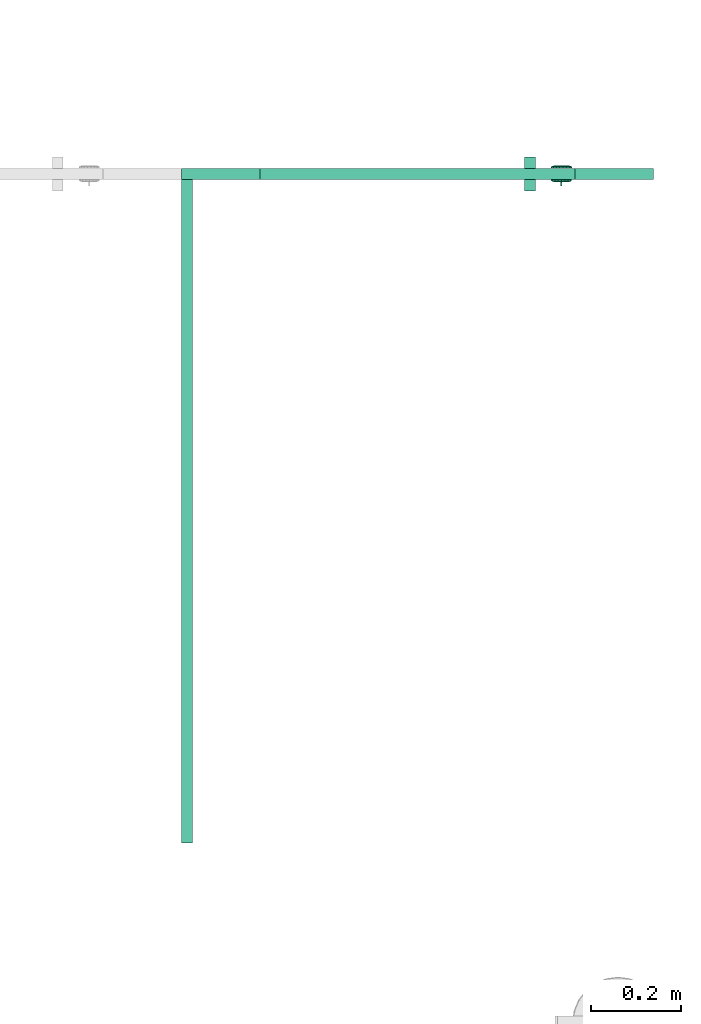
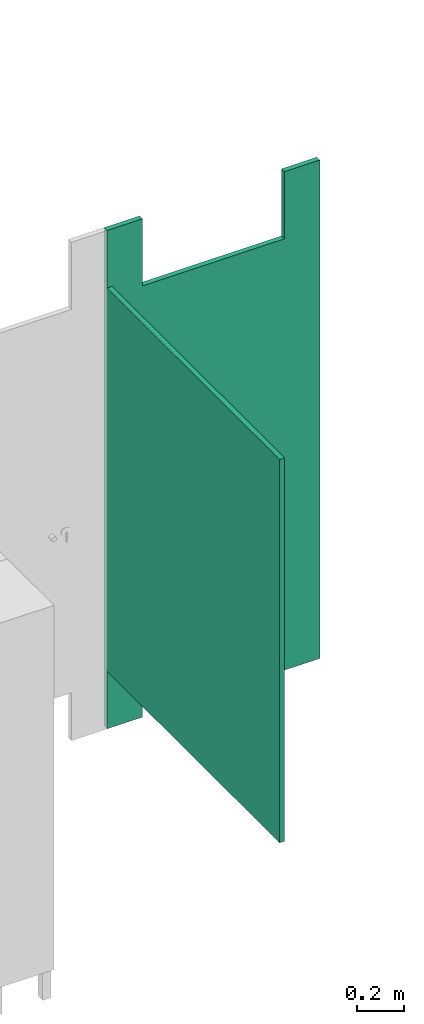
# One storey, part 6 of 9: 1 sanitary terminal.
"""IFC4 building model written with IfcOpenShell, lengths in millimetres."""

from ifc_helpers import new_model, entity, si_unit, converted_unit, derived_unit, direction, frame, origin_with_axes, place, context, subcontext, project, spatial, polygons, type_object, element, save


model = new_model("IFC4")

# Units and contexts
model_context = context("Model", 3, precision=0.01, world=origin_with_axes(), true_north=direction((0.0, 1.0)))
body_context = subcontext(model_context, "Body", "Model", "MODEL_VIEW")
ifc_project = project(units=[si_unit("LENGTHUNIT", "METRE", prefix="MILLI"), si_unit("AREAUNIT", "SQUARE_METRE"), si_unit("VOLUMEUNIT", "CUBIC_METRE"), converted_unit("PLANEANGLEUNIT", "DEGREE", entity("IfcPlaneAngleMeasure", 0.0174532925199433), si_unit("PLANEANGLEUNIT", "RADIAN"), dimensions=[0, 0, 0, 0, 0, 0, 0]), converted_unit("TIMEUNIT", "Year", entity("IfcTimeMeasure", 31557600.0), si_unit("TIMEUNIT", "SECOND"), dimensions=[0, 0, 1, 0, 0, 0, 0]), si_unit("MASSUNIT", "GRAM", prefix="KILO"), si_unit("THERMODYNAMICTEMPERATUREUNIT", "DEGREE_CELSIUS"), si_unit("LUMINOUSINTENSITYUNIT", "LUMEN"), si_unit("ENERGYUNIT", "JOULE", prefix="MEGA"), derived_unit("THERMALCONDUCTANCEUNIT", [(si_unit("POWERUNIT", "WATT"), 1), (si_unit("LENGTHUNIT", "METRE"), -1), (si_unit("THERMODYNAMICTEMPERATUREUNIT", "KELVIN"), -1)]), derived_unit("SPECIFICHEATCAPACITYUNIT", [(si_unit("ENERGYUNIT", "JOULE"), 1), (si_unit("MASSUNIT", "GRAM", prefix="KILO"), -1), (si_unit("THERMODYNAMICTEMPERATUREUNIT", "KELVIN"), -1)]), derived_unit("MASSDENSITYUNIT", [(si_unit("MASSUNIT", "GRAM", prefix="KILO"), 1), (si_unit("VOLUMEUNIT", "CUBIC_METRE"), -1)])], contexts=[model_context])

# Site, building, storey
site_placement = place(None, origin_with_axes())
site = spatial("IfcSite", under=ifc_project, at=site_placement, Name="Exteriér", CompositionType="ELEMENT")
building_placement = place(site_placement, origin_with_axes())
building = spatial("IfcBuilding", under=site, at=building_placement, Name="Univerzitní lezecké centrum", CompositionType="ELEMENT")
storey_placement = place(building_placement, frame((0.0, 0.0, 3200.0), z_axis=(0.0, 0.0, 1.0), x_axis=(1.0, 0.0, 0.0)))
storey = spatial("IfcBuildingStorey", under=building, at=storey_placement, Name="2.NP", CompositionType="ELEMENT", Elevation=3200.0)

# Sanitary terminal
sanitary_terminal_type = type_object("IfcSanitaryTerminalType", Name="Veřejná koupelnová kabinka 27", PredefinedType="NOTDEFINED")
sanitary_terminal_placement = place(storey_placement, frame((8950.096919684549, 500.3872060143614, 0.0), z_axis=(0.0, 0.0, 1.0), x_axis=(-1.0, 0.0, 0.0)))
element("IfcSanitaryTerminal", 1, at=sanitary_terminal_placement, inside=storey, type_object=sanitary_terminal_type, Name="OV24", PredefinedType="NOTDEFINED", context=body_context, shape_type="Tessellation", body=[
    polygons([(0.0, 0.0, 200.0), (0.0, 0.0, 2600.0), (-175.0000000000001, 0.0, 2600.0), (-175.0000000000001, 0.0, 200.0), (0.0, 25.0, 200.0), (0.0, 25.0, 2600.0), (-175.0000000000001, 25.0, 2600.0), (-175.0000000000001, 25.0, 200.0)], [[[1, 2, 3, 4]], [[5, 6, 2, 1]], [[2, 6, 7, 3]], [[4, 3, 7, 8]], [[1, 4, 8, 5]], [[8, 7, 6, 5]]], closed=True),
    polygons([(-875.0, 0.0, 200.0), (-875.0, 0.0, 2600.0), (-1050.0, 0.0, 2600.0), (-1050.0, 0.0, 200.0), (-875.0, 25.0, 200.0), (-875.0, 25.0, 2600.0), (-1050.0, 25.0, 2600.0), (-1050.0, 25.0, 200.0)], [[[1, 2, 3, 4]], [[5, 6, 2, 1]], [[2, 6, 7, 3]], [[4, 3, 7, 8]], [[1, 4, 8, 5]], [[8, 7, 6, 5]]], closed=True),
    polygons([(0.0, 0.0, 0.0), (0.0, 0.0, 200.0), (-175.0000000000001, 0.0, 200.0), (-175.0000000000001, 0.0, 0.0), (0.0, 25.0, 0.0), (0.0, 25.0, 200.0), (-175.0000000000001, 25.0, 200.0), (-175.0000000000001, 25.0, 0.0)], [[[1, 2, 3, 4]], [[5, 6, 2, 1]], [[2, 6, 7, 3]], [[4, 3, 7, 8]], [[1, 4, 8, 5]], [[8, 7, 6, 5]]], closed=True),
    polygons([(-875.0, 0.0, 0.0), (-875.0, 0.0, 200.0), (-1050.0, 0.0, 200.0), (-1050.0, 0.0, 0.0), (-875.0, 25.0, 0.0), (-875.0, 25.0, 200.0), (-1050.0, 25.0, 200.0), (-1050.0, 25.0, 0.0)], [[[1, 2, 3, 4]], [[5, 6, 2, 1]], [[2, 6, 7, 3]], [[4, 3, 7, 8]], [[1, 4, 8, 5]], [[8, 7, 6, 5]]], closed=True),
    polygons([(-175.0000000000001, 0.0, 250.0), (-175.0000000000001, 0.0, 2250.0), (-875.0, 0.0, 2250.0), (-875.0, 0.0, 250.0), (-175.0000000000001, 25.0, 250.0), (-175.0000000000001, 25.0, 2250.0), (-875.0, 25.0, 2250.0), (-875.0, 25.0, 250.0)], [[[1, 2, 3, 4]], [[5, 6, 2, 1]], [[2, 6, 7, 3]], [[4, 3, 7, 8]], [[1, 4, 8, 5]], [[8, 7, 6, 5]]], closed=True),
    polygons([(-843.5, 30.0, 1103.0), (-843.5, 32.0, 1103.0), (-846.5, 32.0, 1103.0), (-846.5, 30.0, 1103.0), (-843.5, 30.0, 1097.0), (-843.5, 32.0, 1097.0), (-843.5, 32.0, 1053.0), (-843.5, 34.0, 1051.0), (-843.5, 35.0, 1051.0), (-843.5, 38.00000000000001, 1072.0), (-843.5, 39.00000000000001, 1090.0), (-843.5, 39.00000000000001, 1102.0), (-846.5, 39.00000000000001, 1102.0), (-846.5, 39.00000000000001, 1090.0), (-846.5, 38.00000000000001, 1072.0), (-846.5, 35.0, 1051.0), (-846.5, 34.0, 1051.0), (-846.5, 32.0, 1053.0), (-846.5, 32.0, 1097.0), (-846.5, 30.0, 1097.0)], [[[1, 2, 3, 4]], [[1, 5, 6, 7, 8, 9, 10, 11, 12, 2]], [[2, 12, 13, 3]], [[4, 3, 13, 14, 15, 16, 17, 18, 19, 20]], [[5, 1, 4, 20]], [[6, 5, 20, 19]], [[7, 6, 19, 18]], [[8, 7, 18, 17]], [[9, 8, 17, 16]], [[10, 9, 16, 15]], [[11, 10, 15, 14]], [[12, 11, 14, 13]]], closed=True),
    polygons([(-839.1856575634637, 30.0, 1115.97477455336), (-845.0, 30.0, 1117.0), (-845.0, 28.0, 1123.0), (-837.1335367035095, 28.0, 1121.612930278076), (-834.0726106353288, 30.0, 1113.022755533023), (-830.2775681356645, 30.0, 1108.5), (-828.2582681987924, 30.0, 1102.952019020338), (-828.2582681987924, 30.0, 1097.047980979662), (-830.2775681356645, 30.0, 1091.5), (-834.0726106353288, 30.0, 1086.977244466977), (-839.1856575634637, 30.0, 1084.02522544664), (-845.0, 30.0, 1083.0), (-850.8143424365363, 30.0, 1084.02522544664), (-855.9273893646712, 30.0, 1086.977244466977), (-859.7224318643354, 30.0, 1091.5), (-861.7417318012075, 30.0, 1097.047980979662), (-861.7417318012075, 30.0, 1102.952019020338), (-859.7224318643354, 30.0, 1108.5), (-855.9273893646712, 30.0, 1113.022755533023), (-850.8143424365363, 30.0, 1115.97477455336), (-852.8664632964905, 28.0, 1121.612930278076), (-845.0, 25.0, 1123.0), (-837.1335367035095, 25.0, 1121.612930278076), (-830.2158849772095, 28.0, 1117.619022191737), (-825.0814157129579, 28.0, 1111.5), (-822.3494216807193, 28.0, 1103.993908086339), (-822.3494216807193, 28.0, 1096.006091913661), (-825.0814157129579, 28.0, 1088.5), (-830.2158849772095, 28.0, 1082.380977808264), (-837.1335367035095, 28.0, 1078.387069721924), (-845.0, 28.0, 1077.0), (-852.8664632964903, 28.0, 1078.387069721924), (-859.7841150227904, 28.0, 1082.380977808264), (-864.918584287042, 28.0, 1088.5), (-867.6505783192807, 28.0, 1096.006091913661), (-867.6505783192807, 28.0, 1103.993908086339), (-864.918584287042, 28.0, 1111.5), (-859.7841150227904, 28.0, 1117.619022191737), (-852.8664632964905, 25.0, 1121.612930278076), (-830.2158849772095, 25.0, 1117.619022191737), (-825.0814157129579, 25.0, 1111.5), (-822.3494216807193, 25.0, 1103.993908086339), (-822.3494216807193, 25.0, 1096.006091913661), (-825.0814157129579, 25.0, 1088.5), (-830.2158849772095, 25.0, 1082.380977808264), (-837.1335367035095, 25.0, 1078.387069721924), (-845.0, 25.0, 1077.0), (-852.8664632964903, 25.0, 1078.387069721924), (-859.7841150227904, 25.0, 1082.380977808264), (-864.918584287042, 25.0, 1088.5), (-867.6505783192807, 25.0, 1096.006091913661), (-867.6505783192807, 25.0, 1103.993908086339), (-864.918584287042, 25.0, 1111.5), (-859.7841150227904, 25.0, 1117.619022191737)], [[[1, 2, 3, 4]], [[2, 1, 5, 6, 7, 8, 9, 10, 11, 12, 13, 14, 15, 16, 17, 18, 19, 20]], [[2, 20, 21, 3]], [[4, 3, 22, 23]], [[5, 1, 4, 24]], [[6, 5, 24, 25]], [[7, 6, 25, 26]], [[8, 7, 26, 27]], [[9, 8, 27, 28]], [[10, 9, 28, 29]], [[11, 10, 29, 30]], [[12, 11, 30, 31]], [[13, 12, 31, 32]], [[14, 13, 32, 33]], [[15, 14, 33, 34]], [[16, 15, 34, 35]], [[17, 16, 35, 36]], [[18, 17, 36, 37]], [[19, 18, 37, 38]], [[20, 19, 38, 21]], [[3, 21, 39, 22]], [[24, 4, 23, 40]], [[25, 24, 40, 41]], [[26, 25, 41, 42]], [[27, 26, 42, 43]], [[28, 27, 43, 44]], [[29, 28, 44, 45]], [[30, 29, 45, 46]], [[31, 30, 46, 47]], [[32, 31, 47, 48]], [[33, 32, 48, 49]], [[34, 33, 49, 50]], [[35, 34, 50, 51]], [[36, 35, 51, 52]], [[37, 36, 52, 53]], [[38, 37, 53, 54]], [[21, 38, 54, 39]]], closed=False),
    polygons([(-822.0, -1.200000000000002, 1100.0), (-823.3870697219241, -1.200000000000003, 1107.866463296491), (-823.3870697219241, -4.200000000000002, 1107.866463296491), (-822.0, -4.200000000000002, 1100.0), (-823.3870697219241, -1.200000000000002, 1092.13353670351), (-827.3809778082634, -1.200000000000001, 1085.215884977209), (-833.5, -1.2, 1080.081415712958), (-841.0060919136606, -1.199999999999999, 1077.349421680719), (-848.9939080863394, -1.199999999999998, 1077.349421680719), (-856.5, -1.199999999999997, 1080.081415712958), (-862.6190221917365, -1.199999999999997, 1085.21588497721), (-866.6129302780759, -1.199999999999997, 1092.13353670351), (-868.0, -1.199999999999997, 1100.0), (-866.6129302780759, -1.199999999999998, 1107.866463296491), (-862.6190221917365, -1.199999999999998, 1114.784115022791), (-856.4999999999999, -1.2, 1119.918584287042), (-848.9939080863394, -1.200000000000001, 1122.650578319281), (-841.0060919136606, -1.200000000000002, 1122.650578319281), (-833.5, -1.200000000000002, 1119.918584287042), (-827.3809778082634, -1.200000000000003, 1114.784115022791), (-827.3809778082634, -4.200000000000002, 1114.784115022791), (-833.5, -4.200000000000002, 1119.918584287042), (-841.0060919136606, -4.200000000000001, 1122.650578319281), (-848.9939080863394, -4.2, 1122.650578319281), (-856.4999999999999, -4.2, 1119.918584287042), (-862.6190221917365, -4.199999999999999, 1114.784115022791), (-866.6129302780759, -4.199999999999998, 1107.866463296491), (-868.0, -4.199999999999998, 1100.0), (-866.6129302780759, -4.199999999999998, 1092.13353670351), (-862.6190221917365, -4.199999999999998, 1085.21588497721), (-856.5, -4.199999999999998, 1080.081415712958), (-848.9939080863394, -4.199999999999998, 1077.349421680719), (-841.0060919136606, -4.199999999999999, 1077.349421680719), (-833.5, -4.2, 1080.081415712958), (-827.3809778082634, -4.2, 1085.215884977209), (-823.3870697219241, -4.200000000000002, 1092.13353670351)], [[[1, 2, 3, 4]], [[1, 5, 6, 7, 8, 9, 10, 11, 12, 13, 14, 15, 16, 17, 18, 19, 20, 2]], [[2, 20, 21, 3]], [[4, 3, 21, 22, 23, 24, 25, 26, 27, 28, 29, 30, 31, 32, 33, 34, 35, 36]], [[5, 1, 4, 36]], [[6, 5, 36, 35]], [[7, 6, 35, 34]], [[8, 7, 34, 33]], [[9, 8, 33, 32]], [[10, 9, 32, 31]], [[11, 10, 31, 30]], [[12, 11, 30, 29]], [[13, 12, 29, 28]], [[14, 13, 28, 27]], [[15, 14, 27, 26]], [[16, 15, 26, 25]], [[17, 16, 25, 24]], [[18, 17, 24, 23]], [[19, 18, 23, 22]], [[20, 19, 22, 21]]], closed=True),
    polygons([(-853.4999999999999, -6.199999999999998, 1085.277568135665), (-847.9520190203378, -6.199999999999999, 1083.258268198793), (-842.0479809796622, -6.199999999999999, 1083.258268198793), (-836.5, -6.2, 1085.277568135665), (-831.9772444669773, -6.2, 1089.072610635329), (-829.0252254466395, -6.200000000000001, 1094.185657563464), (-828.0, -6.200000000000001, 1100.0), (-829.0252254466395, -6.200000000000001, 1105.814342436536), (-831.9772444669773, -6.200000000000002, 1110.927389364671), (-836.4999999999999, -6.200000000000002, 1114.722431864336), (-842.0479809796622, -6.200000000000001, 1116.741731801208), (-847.9520190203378, -6.200000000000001, 1116.741731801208), (-853.4999999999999, -6.2, 1114.722431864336), (-858.0227555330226, -6.2, 1110.927389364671), (-860.9747745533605, -6.199999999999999, 1105.814342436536), (-862.0, -6.199999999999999, 1100.0), (-860.9747745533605, -6.199999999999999, 1094.185657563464), (-858.0227555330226, -6.199999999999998, 1089.072610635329), (-841.0, -6.200000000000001, 1107.5), (-849.0, -6.2, 1107.5), (-849.0, -6.200000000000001, 1112.5), (-841.0, -6.200000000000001, 1112.5), (-848.9939080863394, -4.199999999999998, 1077.349421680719), (-856.4999999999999, -4.199999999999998, 1080.081415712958), (-841.0060919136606, -4.199999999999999, 1077.349421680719), (-833.5, -4.199999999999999, 1080.081415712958), (-827.3809778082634, -4.2, 1085.21588497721), (-823.3870697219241, -4.2, 1092.13353670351), (-822.0, -4.2, 1100.0), (-823.3870697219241, -4.200000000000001, 1107.866463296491), (-827.3809778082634, -4.200000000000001, 1114.784115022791), (-833.4999999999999, -4.200000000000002, 1119.918584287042), (-841.0060919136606, -4.200000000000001, 1122.650578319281), (-848.9939080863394, -4.2, 1122.650578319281), (-856.4999999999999, -4.2, 1119.918584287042), (-862.6190221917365, -4.2, 1114.784115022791), (-866.6129302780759, -4.199999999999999, 1107.866463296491), (-868.0, -4.199999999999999, 1100.0), (-866.6129302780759, -4.199999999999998, 1092.13353670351), (-862.6190221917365, -4.199999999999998, 1085.21588497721), (-849.0, -4.2, 1107.5), (-841.0, -4.2, 1107.5), (-849.0, -4.2, 1112.5), (-841.0, -4.200000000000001, 1112.5)], [[[1, 2, 3, 4, 5, 6, 7, 8, 9, 10, 11, 12, 13, 14, 15, 16, 17, 18], [19, 20, 21, 22]], [[23, 2, 1, 24]], [[25, 3, 2, 23]], [[26, 4, 3, 25]], [[27, 5, 4, 26]], [[28, 6, 5, 27]], [[29, 7, 6, 28]], [[30, 8, 7, 29]], [[31, 9, 8, 30]], [[32, 10, 9, 31]], [[33, 11, 10, 32]], [[34, 12, 11, 33]], [[35, 13, 12, 34]], [[36, 14, 13, 35]], [[37, 15, 14, 36]], [[38, 16, 15, 37]], [[39, 17, 16, 38]], [[40, 18, 17, 39]], [[24, 1, 18, 40]], [[41, 20, 19, 42]], [[43, 21, 20, 41]], [[44, 22, 21, 43]], [[42, 19, 22, 44]], [[35, 34, 33, 32, 31, 30, 29, 28, 27, 26, 25, 23, 24, 40, 39, 38, 37, 36], [42, 44, 43, 41]]], closed=True),
    polygons([(-841.0, -4.210000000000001, 1112.5), (-841.0, -4.210000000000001, 1107.5), (-849.0, -4.21, 1107.5), (-849.0, -4.21, 1112.5)], [[[1, 2, 3, 4]]], closed=False),
    polygons([(-786.5911099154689, 25.0, 1096.89417145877), (-785.3923048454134, 25.0, 1094.0), (-783.4852813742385, 25.0, 1091.514718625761), (-781.0, 25.0, 1089.607695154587), (-778.1058285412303, 25.0, 1088.408890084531), (-775.0, 25.0, 1088.0), (-771.8941714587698, 25.0, 1088.408890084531), (-769.0, 25.0, 1089.607695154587), (-766.5147186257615, 25.0, 1091.514718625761), (-764.6076951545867, 25.0, 1094.0), (-763.4088900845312, 25.0, 1096.89417145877), (-763.0, 25.0, 1100.0), (-763.4088900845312, 25.0, 1103.10582854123), (-764.6076951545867, 25.0, 1106.0), (-766.5147186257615, 25.0, 1108.485281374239), (-769.0, 25.0, 1110.392304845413), (-771.8941714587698, 25.0, 1111.591109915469), (-775.0, 25.0, 1112.0), (-778.1058285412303, 25.0, 1111.591109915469), (-781.0, 25.0, 1110.392304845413), (-783.4852813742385, 25.0, 1108.485281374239), (-785.3923048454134, 25.0, 1106.0), (-786.5911099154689, 25.0, 1103.10582854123), (-787.0, 25.0, 1100.0), (-786.5911099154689, 50.0, 1096.89417145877), (-785.3923048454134, 50.0, 1094.0), (-783.4852813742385, 50.0, 1091.514718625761), (-781.0, 50.0, 1089.607695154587), (-778.1058285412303, 50.0, 1088.408890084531), (-775.0, 50.0, 1088.0), (-771.8941714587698, 50.0, 1088.408890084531), (-769.0, 50.0, 1089.607695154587), (-766.5147186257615, 50.0, 1091.514718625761), (-764.6076951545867, 50.0, 1094.0), (-763.4088900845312, 50.0, 1096.89417145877), (-763.0, 50.0, 1100.0), (-763.4088900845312, 50.0, 1103.10582854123), (-764.6076951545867, 50.0, 1106.0), (-766.5147186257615, 50.0, 1108.485281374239), (-769.0, 50.0, 1110.392304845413), (-771.8941714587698, 50.0, 1111.591109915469), (-775.0, 50.0, 1112.0), (-778.1058285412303, 50.0, 1111.591109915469), (-781.0, 50.0, 1110.392304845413), (-783.4852813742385, 50.0, 1108.485281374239), (-785.3923048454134, 50.0, 1106.0), (-786.5911099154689, 50.0, 1103.10582854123), (-787.0, 50.0, 1100.0)], [[[1, 2, 3, 4, 5, 6, 7, 8, 9, 10, 11, 12, 13, 14, 15, 16, 17, 18, 19, 20, 21, 22, 23, 24]], [[2, 1, 25, 26]], [[3, 2, 26, 27]], [[4, 3, 27, 28]], [[5, 4, 28, 29]], [[6, 5, 29, 30]], [[7, 6, 30, 31]], [[8, 7, 31, 32]], [[9, 8, 32, 33]], [[10, 9, 33, 34]], [[11, 10, 34, 35]], [[12, 11, 35, 36]], [[13, 12, 36, 37]], [[14, 13, 37, 38]], [[15, 14, 38, 39]], [[16, 15, 39, 40]], [[17, 16, 40, 41]], [[18, 17, 41, 42]], [[19, 18, 42, 43]], [[20, 19, 43, 44]], [[21, 20, 44, 45]], [[22, 21, 45, 46]], [[23, 22, 46, 47]], [[24, 23, 47, 48]], [[1, 24, 48, 25]], [[25, 48, 47, 46, 45, 44, 43, 42, 41, 40, 39, 38, 37, 36, 35, 34, 33, 32, 31, 30, 29, 28, 27, 26]]], closed=True),
    polygons([(-786.5911099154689, 0.0, 1096.89417145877), (-787.0, 0.0, 1100.0), (-786.5911099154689, 0.0, 1103.10582854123), (-785.3923048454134, 0.0, 1106.0), (-783.4852813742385, 0.0, 1108.485281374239), (-781.0, 0.0, 1110.392304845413), (-778.1058285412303, 0.0, 1111.591109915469), (-775.0, 0.0, 1112.0), (-771.8941714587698, 0.0, 1111.591109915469), (-769.0, 0.0, 1110.392304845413), (-766.5147186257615, 0.0, 1108.485281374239), (-764.6076951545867, 0.0, 1106.0), (-763.4088900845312, 0.0, 1103.10582854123), (-763.0, 0.0, 1100.0), (-763.4088900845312, 0.0, 1096.89417145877), (-764.6076951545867, 0.0, 1094.0), (-766.5147186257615, 0.0, 1091.514718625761), (-769.0, 0.0, 1089.607695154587), (-771.8941714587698, 0.0, 1088.408890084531), (-775.0, 0.0, 1088.0), (-778.1058285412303, 0.0, 1088.408890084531), (-781.0, 0.0, 1089.607695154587), (-783.4852813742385, 0.0, 1091.514718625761), (-785.3923048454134, 0.0, 1094.0), (-786.5911099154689, -25.0, 1096.89417145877), (-787.0, -25.0, 1100.0), (-786.5911099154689, -25.0, 1103.10582854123), (-785.3923048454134, -25.0, 1106.0), (-783.4852813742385, -25.0, 1108.485281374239), (-781.0, -25.0, 1110.392304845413), (-778.1058285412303, -25.0, 1111.591109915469), (-775.0, -25.0, 1112.0), (-771.8941714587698, -25.0, 1111.591109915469), (-769.0, -25.0, 1110.392304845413), (-766.5147186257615, -25.0, 1108.485281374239), (-764.6076951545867, -25.0, 1106.0), (-763.4088900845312, -25.0, 1103.10582854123), (-763.0, -25.0, 1100.0), (-763.4088900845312, -25.0, 1096.89417145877), (-764.6076951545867, -25.0, 1094.0), (-766.5147186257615, -25.0, 1091.514718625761), (-769.0, -25.0, 1089.607695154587), (-771.8941714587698, -25.0, 1088.408890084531), (-775.0, -25.0, 1088.0), (-778.1058285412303, -25.0, 1088.408890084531), (-781.0, -25.0, 1089.607695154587), (-783.4852813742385, -25.0, 1091.514718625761), (-785.3923048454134, -25.0, 1094.0)], [[[1, 2, 3, 4, 5, 6, 7, 8, 9, 10, 11, 12, 13, 14, 15, 16, 17, 18, 19, 20, 21, 22, 23, 24]], [[1, 25, 26, 2]], [[2, 26, 27, 3]], [[3, 27, 28, 4]], [[4, 28, 29, 5]], [[5, 29, 30, 6]], [[6, 30, 31, 7]], [[7, 31, 32, 8]], [[8, 32, 33, 9]], [[9, 33, 34, 10]], [[10, 34, 35, 11]], [[11, 35, 36, 12]], [[12, 36, 37, 13]], [[13, 37, 38, 14]], [[14, 38, 39, 15]], [[15, 39, 40, 16]], [[16, 40, 41, 17]], [[17, 41, 42, 18]], [[18, 42, 43, 19]], [[19, 43, 44, 20]], [[20, 44, 45, 21]], [[21, 45, 46, 22]], [[22, 46, 47, 23]], [[23, 47, 48, 24]], [[24, 48, 25, 1]], [[25, 48, 47, 46, 45, 44, 43, 42, 41, 40, 39, 38, 37, 36, 35, 34, 33, 32, 31, 30, 29, 28, 27, 26]]], closed=True),
    polygons([(-25.0, 25.0, 300.0), (-25.0, 25.0, 2300.0), (-25.00000000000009, 1500.0, 2300.0), (-25.00000000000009, 1500.0, 300.0), (0.0, 25.0, 300.0), (0.0, 25.0, 2300.0), (0.0, 1500.0, 2300.0), (0.0, 1500.0, 300.0)], [[[1, 2, 3, 4]], [[5, 6, 2, 1]], [[2, 6, 7, 3]], [[4, 3, 7, 8]], [[1, 4, 8, 5]], [[8, 7, 6, 5]]], closed=True),
])

save(model, "model.ifc")
